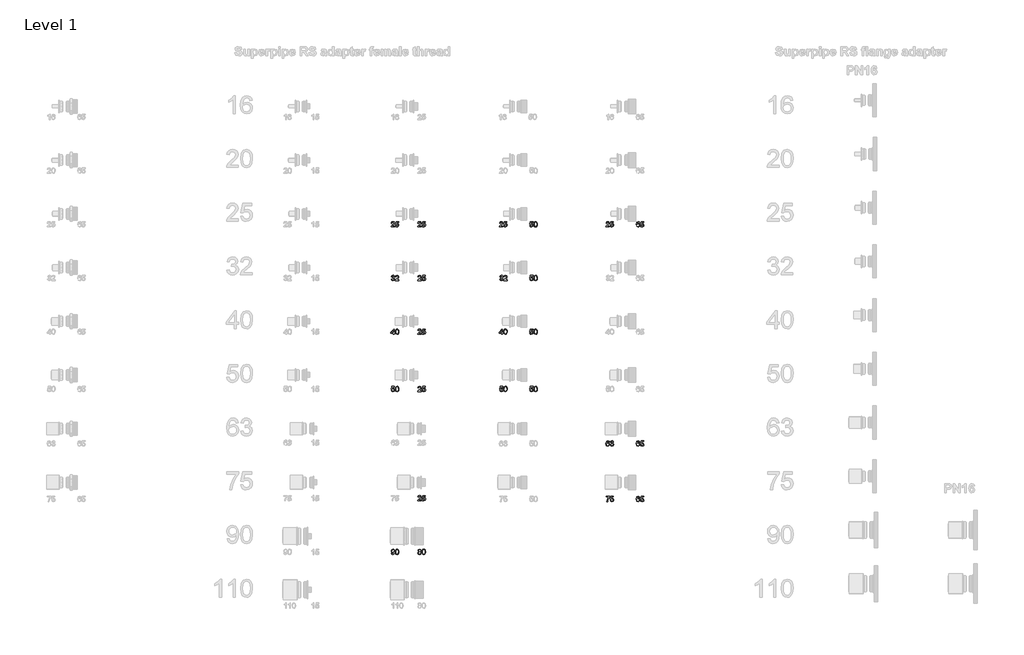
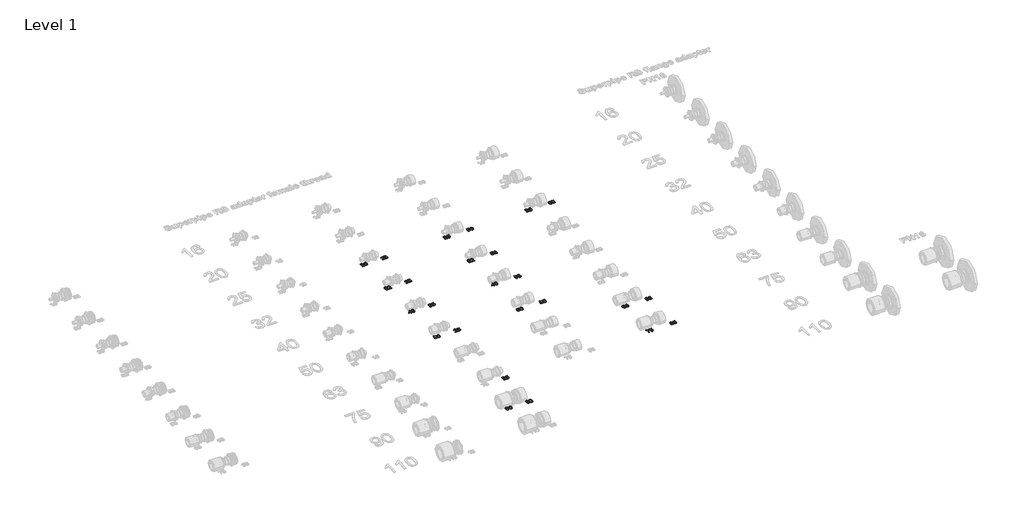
# One storey, part 47 of 58: 25 proxies.
"""IFC4 building model written with IfcOpenShell, lengths in millimetres."""

from ifc_helpers import new_model, si_unit, frame, origin, place, context, project, spatial, polyline, outline, extrude, element, save

model = new_model("IFC4")

# Units and contexts
model_context = context("Model", 3, world=origin())
ifc_project = project(units=[si_unit("LENGTHUNIT", "METRE", prefix="MILLI")], contexts=[model_context])

# Site, building, storey
site = spatial("IfcSite", under=ifc_project)
building = spatial("IfcBuilding", under=site)
storey = spatial("IfcBuildingStorey", under=building, Name="Level 1", Elevation=27.3876384)

# Proxies
placement = place(None, origin())
element("IfcBuildingElementProxy", 1, Name="30mm Arial", ObjectType="30mm Arial", at=placement, inside=storey, context=model_context, shape_type="SweptSolid", body=[
    extrude(outline(polyline([(32826.8418771, 17977.3459656), (32826.8418771, 17973.5788539), (32807.0645411, 17973.5788539), (32807.4692113, 17976.1761008), (32809.7574373, 17980.1749781), (32814.4736845, 17984.5417374), (32820.9778381, 17990.8178042), (32822.6038765, 17995.0852354), (32821.0698086, 17998.5396473), (32817.0635737, 17999.9486353), (32812.8881131, 17998.5727567), (32811.3025417, 17994.7688569), (32807.53543, 17995.2397458), (32810.4233037, 18001.5452432), (32817.1445077, 18003.715747), (32823.8877847, 18001.3024411), (32826.3709882, 17995.3133222), (32825.7014429, 17991.741188), (32823.4757569, 17988.0476528), (32818.078928, 17982.8862684), (32813.7452781, 17979.2626308), (32812.0456633, 17977.3459656), (32826.8418771, 17977.3459656)])), frame((0.0, 0.0, 27.3876384), z_axis=(0.0, 0.0, 1.0), x_axis=(1.0, 0.0, 0.0)), (0.0, 0.0, 1.0), 2.0),
    extrude(outline(polyline([(32830.6089888, 17981.5839661), (32834.3761004, 17982.0548551), (32836.2743715, 17978.1737001), (32840.2107088, 17976.8750766), (32844.9343137, 17978.6813772), (32846.6192132, 17983.4748796), (32845.0409994, 17987.9483247), (32840.26957, 17989.5890784), (32836.9623108, 17988.9342484), (32834.8469893, 17987.2346336), (32831.0798777, 17987.7055225), (32834.3761004, 18003.244858), (32848.973658, 18003.244858), (32848.973658, 17999.4777464), (32837.4221633, 17999.4777464), (32835.8108402, 17991.1783286), (32841.3217125, 17993.35619), (32847.7633262, 17990.6559361), (32850.3863248, 17983.7103241), (32848.0245224, 17976.7205662), (32840.1959936, 17973.107965), (32833.5483659, 17975.4293004), (32830.6089888, 17981.5839661)])), frame((0.0, 0.0, 27.3876384), z_axis=(0.0, 0.0, 1.0), x_axis=(1.0, 0.0, 0.0)), (0.0, 0.0, 1.0), 2.0),
])
element("IfcBuildingElementProxy", 2, Name="30mm Arial", ObjectType="30mm Arial", at=placement, inside=storey, context=model_context, shape_type="SweptSolid", body=[
    extrude(outline(polyline([(32976.28543, 17981.5839661), (32980.0525417, 17982.0548551), (32981.9508128, 17978.1737001), (32985.8871501, 17976.8750766), (32990.6107549, 17978.6813772), (32992.2956545, 17983.4748796), (32990.7174407, 17987.9483247), (32985.9460112, 17989.5890784), (32982.6387521, 17988.9342484), (32980.5234306, 17987.2346336), (32976.756319, 17987.7055225), (32980.0525417, 18003.244858), (32994.6500992, 18003.244858), (32994.6500992, 17999.4777464), (32983.0986046, 17999.4777464), (32981.4872814, 17991.1783286), (32986.9981537, 17993.35619), (32993.4397675, 17990.6559361), (32996.0627661, 17983.7103241), (32993.7009637, 17976.7205662), (32985.8724348, 17973.107965), (32979.2248072, 17975.4293004), (32976.28543, 17981.5839661)])), frame((0.0, 0.0, 27.3876384), z_axis=(0.0, 0.0, 1.0), x_axis=(1.0, 0.0, 0.0)), (0.0, 0.0, 1.0), 2.0),
    extrude(outline(polyline([(32999.3589888, 17988.4044983), (33000.4663136, 17997.075477), (33003.7551786, 18002.0749933), (33009.2476568, 18003.715747), (33013.6475255, 18002.7445385), (33016.6862307, 17999.9449565), (33018.4520643, 17995.4862267), (33019.1363248, 17988.4044983), (33018.0400365, 17979.7703079), (33014.7622079, 17974.7597551), (33009.2476568, 17973.107965), (33002.3609058, 17975.9774445), (32999.3589888, 17988.4044983)]), holes=[polyline([(33003.1261004, 17988.411856), (33004.891934, 17979.0566168), (33009.2476568, 17976.8750766), (33013.6033796, 17979.0639745), (33015.3692132, 17988.411856), (33013.6622407, 17997.6604093), (33009.203511, 17999.9486353), (33004.9507951, 17997.932642), (33003.1261004, 17988.411856)])]), frame((0.0, 0.0, 27.3876384), z_axis=(0.0, 0.0, 1.0), x_axis=(1.0, 0.0, 0.0)), (0.0, 0.0, 1.0), 2.0),
])
element("IfcBuildingElementProxy", 3, Name="30mm Arial", ObjectType="30mm Arial", at=placement, inside=storey, context=model_context, shape_type="SweptSolid", body=[
    extrude(outline(polyline([(32807.53543, 17681.5839661), (32811.3025417, 17682.0548551), (32813.3810749, 17678.0890872), (32817.2695876, 17676.8750766), (32821.8460396, 17678.5452609), (32823.5456545, 17682.6802545), (32821.8607549, 17686.5761248), (32817.5786085, 17688.1175504), (32814.9372158, 17687.7055225), (32815.3566012, 17691.4726342), (32820.2347165, 17692.5100614), (32822.1329876, 17695.8357146), (32820.7571089, 17698.7824494), (32817.2107265, 17699.9486353), (32813.6201982, 17698.771413), (32811.7734306, 17695.2397458), (32808.006319, 17695.7106348), (32811.0891701, 17701.6188196), (32817.078289, 17703.715747), (32821.6216316, 17702.6819986), (32824.8001321, 17699.8566648), (32825.9000992, 17696.0564438), (32824.8553144, 17692.5836378), (32821.7651056, 17690.0893979), (32825.8706687, 17687.5142239), (32827.3127661, 17682.6140357), (32824.4285712, 17675.8744376), (32817.1371501, 17673.107965), (32810.5299895, 17675.4697674), (32807.53543, 17681.5839661)])), frame((0.0, 0.0, 27.3876384), z_axis=(0.0, 0.0, 1.0), x_axis=(1.0, 0.0, 0.0)), (0.0, 0.0, 1.0), 2.0),
    extrude(outline(polyline([(32849.9154359, 17677.3459656), (32849.9154359, 17673.5788539), (32830.1380998, 17673.5788539), (32830.54277, 17676.1761008), (32832.830996, 17680.1749781), (32837.5472432, 17684.5417374), (32844.0513969, 17690.8178042), (32845.6774353, 17695.0852354), (32844.1433674, 17698.5396473), (32840.1371324, 17699.9486353), (32835.9616718, 17698.5727567), (32834.3761004, 17694.7688569), (32830.6089888, 17695.2397458), (32833.4968624, 17701.5452432), (32840.2180665, 17703.715747), (32846.9613434, 17701.3024411), (32849.4445469, 17695.3133222), (32848.7750017, 17691.741188), (32846.5493156, 17688.0476528), (32841.1524867, 17682.8862684), (32836.8188368, 17679.2626308), (32835.119222, 17677.3459656), (32849.9154359, 17677.3459656)])), frame((0.0, 0.0, 27.3876384), z_axis=(0.0, 0.0, 1.0), x_axis=(1.0, 0.0, 0.0)), (0.0, 0.0, 1.0), 2.0),
])
element("IfcBuildingElementProxy", 4, Name="30mm Arial", ObjectType="30mm Arial", at=placement, inside=storey, context=model_context, shape_type="SweptSolid", body=[
    extrude(outline(polyline([(32976.28543, 17681.5839661), (32980.0525417, 17682.0548551), (32981.9508128, 17678.1737001), (32985.8871501, 17676.8750766), (32990.6107549, 17678.6813772), (32992.2956545, 17683.4748796), (32990.7174407, 17687.9483247), (32985.9460112, 17689.5890784), (32982.6387521, 17688.9342484), (32980.5234306, 17687.2346336), (32976.756319, 17687.7055225), (32980.0525417, 17703.244858), (32994.6500992, 17703.244858), (32994.6500992, 17699.4777464), (32983.0986046, 17699.4777464), (32981.4872814, 17691.1783286), (32986.9981537, 17693.35619), (32993.4397675, 17690.6559361), (32996.0627661, 17683.7103241), (32993.7009637, 17676.7205662), (32985.8724348, 17673.107965), (32979.2248072, 17675.4293004), (32976.28543, 17681.5839661)])), frame((0.0, 0.0, 27.3876384), z_axis=(0.0, 0.0, 1.0), x_axis=(1.0, 0.0, 0.0)), (0.0, 0.0, 1.0), 2.0),
    extrude(outline(polyline([(32999.3589888, 17688.4044983), (33000.4663136, 17697.075477), (33003.7551786, 17702.0749933), (33009.2476568, 17703.715747), (33013.6475255, 17702.7445385), (33016.6862307, 17699.9449565), (33018.4520643, 17695.4862267), (33019.1363248, 17688.4044983), (33018.0400365, 17679.7703079), (33014.7622079, 17674.7597551), (33009.2476568, 17673.107965), (33002.3609058, 17675.9774445), (32999.3589888, 17688.4044983)]), holes=[polyline([(33003.1261004, 17688.411856), (33004.891934, 17679.0566168), (33009.2476568, 17676.8750766), (33013.6033796, 17679.0639745), (33015.3692132, 17688.411856), (33013.6622407, 17697.6604093), (33009.203511, 17699.9486353), (33004.9507951, 17697.932642), (33003.1261004, 17688.411856)])]), frame((0.0, 0.0, 27.3876384), z_axis=(0.0, 0.0, 1.0), x_axis=(1.0, 0.0, 0.0)), (0.0, 0.0, 1.0), 2.0),
])
element("IfcBuildingElementProxy", 5, Name="30mm Arial", ObjectType="30mm Arial", at=placement, inside=storey, context=model_context, shape_type="SweptSolid", body=[
    extrude(outline(polyline([(32819.7785428, 17373.5788539), (32819.7785428, 17380.6421882), (32806.1227632, 17380.6421882), (32806.1227632, 17384.4092999), (32820.7203207, 17403.244858), (32823.5456545, 17403.244858), (32823.5456545, 17384.4092999), (32827.3127661, 17384.4092999), (32827.3127661, 17380.6421882), (32823.5456545, 17380.6421882), (32823.5456545, 17373.5788539), (32819.7785428, 17373.5788539)]), holes=[polyline([(32819.7785428, 17384.4092999), (32819.7785428, 17396.0490862), (32810.7580763, 17384.4092999), (32819.7785428, 17384.4092999)])]), frame((0.0, 0.0, 27.3876384), z_axis=(0.0, 0.0, 1.0), x_axis=(1.0, 0.0, 0.0)), (0.0, 0.0, 1.0), 2.0),
    extrude(outline(polyline([(32830.6089888, 17388.4044983), (32831.7163136, 17397.075477), (32835.0051786, 17402.0749933), (32840.4976568, 17403.715747), (32844.8975255, 17402.7445385), (32847.9362307, 17399.9449565), (32849.7020643, 17395.4862267), (32850.3863248, 17388.4044983), (32849.2900365, 17379.7703079), (32846.0122079, 17374.7597551), (32840.4976568, 17373.107965), (32833.6109058, 17375.9774445), (32830.6089888, 17388.4044983)]), holes=[polyline([(32834.3761004, 17388.411856), (32836.141934, 17379.0566168), (32840.4976568, 17376.8750766), (32844.8533796, 17379.0639745), (32846.6192132, 17388.411856), (32844.9122407, 17397.6604093), (32840.453511, 17399.9486353), (32836.2007951, 17397.932642), (32834.3761004, 17388.411856)])]), frame((0.0, 0.0, 27.3876384), z_axis=(0.0, 0.0, 1.0), x_axis=(1.0, 0.0, 0.0)), (0.0, 0.0, 1.0), 2.0),
])
element("IfcBuildingElementProxy", 6, Name="30mm Arial", ObjectType="30mm Arial", at=placement, inside=storey, context=model_context, shape_type="SweptSolid", body=[
    extrude(outline(polyline([(32976.28543, 17381.5839661), (32980.0525417, 17382.0548551), (32981.9508128, 17378.1737001), (32985.8871501, 17376.8750766), (32990.6107549, 17378.6813772), (32992.2956545, 17383.4748796), (32990.7174407, 17387.9483247), (32985.9460112, 17389.5890784), (32982.6387521, 17388.9342484), (32980.5234306, 17387.2346336), (32976.756319, 17387.7055225), (32980.0525417, 17403.244858), (32994.6500992, 17403.244858), (32994.6500992, 17399.4777464), (32983.0986046, 17399.4777464), (32981.4872814, 17391.1783286), (32986.9981537, 17393.35619), (32993.4397675, 17390.6559361), (32996.0627661, 17383.7103241), (32993.7009637, 17376.7205662), (32985.8724348, 17373.107965), (32979.2248072, 17375.4293004), (32976.28543, 17381.5839661)])), frame((0.0, 0.0, 27.3876384), z_axis=(0.0, 0.0, 1.0), x_axis=(1.0, 0.0, 0.0)), (0.0, 0.0, 1.0), 2.0),
    extrude(outline(polyline([(32999.3589888, 17388.4044983), (33000.4663136, 17397.075477), (33003.7551786, 17402.0749933), (33009.2476568, 17403.715747), (33013.6475255, 17402.7445385), (33016.6862307, 17399.9449565), (33018.4520643, 17395.4862267), (33019.1363248, 17388.4044983), (33018.0400365, 17379.7703079), (33014.7622079, 17374.7597551), (33009.2476568, 17373.107965), (33002.3609058, 17375.9774445), (32999.3589888, 17388.4044983)]), holes=[polyline([(33003.1261004, 17388.411856), (33004.891934, 17379.0566168), (33009.2476568, 17376.8750766), (33013.6033796, 17379.0639745), (33015.3692132, 17388.411856), (33013.6622407, 17397.6604093), (33009.203511, 17399.9486353), (33004.9507951, 17397.932642), (33003.1261004, 17388.411856)])]), frame((0.0, 0.0, 27.3876384), z_axis=(0.0, 0.0, 1.0), x_axis=(1.0, 0.0, 0.0)), (0.0, 0.0, 1.0), 2.0),
])
element("IfcBuildingElementProxy", 7, Name="30mm Arial", ObjectType="30mm Arial", at=placement, inside=storey, context=model_context, shape_type="SweptSolid", body=[
    extrude(outline(polyline([(32807.53543, 17061.5839661), (32811.3025417, 17062.0548551), (32813.2008128, 17058.1737001), (32817.1371501, 17056.8750766), (32821.8607549, 17058.6813772), (32823.5456545, 17063.4748796), (32821.9674407, 17067.9483247), (32817.1960112, 17069.5890784), (32813.8887521, 17068.9342484), (32811.7734306, 17067.2346336), (32808.006319, 17067.7055225), (32811.3025417, 17083.244858), (32825.9000992, 17083.244858), (32825.9000992, 17079.4777464), (32814.3486046, 17079.4777464), (32812.7372814, 17071.1783286), (32818.2481537, 17073.35619), (32824.6897675, 17070.6559361), (32827.3127661, 17063.7103241), (32824.9509637, 17056.7205662), (32817.1224348, 17053.107965), (32810.4748072, 17055.4293004), (32807.53543, 17061.5839661)])), frame((0.0, 0.0, 27.3876384), z_axis=(0.0, 0.0, 1.0), x_axis=(1.0, 0.0, 0.0)), (0.0, 0.0, 1.0), 2.0),
    extrude(outline(polyline([(32830.6089888, 17068.4044983), (32831.7163136, 17077.075477), (32835.0051786, 17082.0749933), (32840.4976568, 17083.715747), (32844.8975255, 17082.7445385), (32847.9362307, 17079.9449565), (32849.7020643, 17075.4862267), (32850.3863248, 17068.4044983), (32849.2900365, 17059.7703079), (32846.0122079, 17054.7597551), (32840.4976568, 17053.107965), (32833.6109058, 17055.9774445), (32830.6089888, 17068.4044983)]), holes=[polyline([(32834.3761004, 17068.411856), (32836.141934, 17059.0566168), (32840.4976568, 17056.8750766), (32844.8533796, 17059.0639745), (32846.6192132, 17068.411856), (32844.9122407, 17077.6604093), (32840.453511, 17079.9486353), (32836.2007951, 17077.932642), (32834.3761004, 17068.411856)])]), frame((0.0, 0.0, 27.3876384), z_axis=(0.0, 0.0, 1.0), x_axis=(1.0, 0.0, 0.0)), (0.0, 0.0, 1.0), 2.0),
])
element("IfcBuildingElementProxy", 8, Name="30mm Arial", ObjectType="30mm Arial", at=placement, inside=storey, context=model_context, shape_type="SweptSolid", body=[
    extrude(outline(polyline([(32976.28543, 17061.5839661), (32980.0525417, 17062.0548551), (32981.9508128, 17058.1737001), (32985.8871501, 17056.8750766), (32990.6107549, 17058.6813772), (32992.2956545, 17063.4748796), (32990.7174407, 17067.9483247), (32985.9460112, 17069.5890784), (32982.6387521, 17068.9342484), (32980.5234306, 17067.2346336), (32976.756319, 17067.7055225), (32980.0525417, 17083.244858), (32994.6500992, 17083.244858), (32994.6500992, 17079.4777464), (32983.0986046, 17079.4777464), (32981.4872814, 17071.1783286), (32986.9981537, 17073.35619), (32993.4397675, 17070.6559361), (32996.0627661, 17063.7103241), (32993.7009637, 17056.7205662), (32985.8724348, 17053.107965), (32979.2248072, 17055.4293004), (32976.28543, 17061.5839661)])), frame((0.0, 0.0, 27.3876384), z_axis=(0.0, 0.0, 1.0), x_axis=(1.0, 0.0, 0.0)), (0.0, 0.0, 1.0), 2.0),
    extrude(outline(polyline([(32999.3589888, 17068.4044983), (33000.4663136, 17077.075477), (33003.7551786, 17082.0749933), (33009.2476568, 17083.715747), (33013.6475255, 17082.7445385), (33016.6862307, 17079.9449565), (33018.4520643, 17075.4862267), (33019.1363248, 17068.4044983), (33018.0400365, 17059.7703079), (33014.7622079, 17054.7597551), (33009.2476568, 17053.107965), (33002.3609058, 17055.9774445), (32999.3589888, 17068.4044983)]), holes=[polyline([(33003.1261004, 17068.411856), (33004.891934, 17059.0566168), (33009.2476568, 17056.8750766), (33013.6033796, 17059.0639745), (33015.3692132, 17068.411856), (33013.6622407, 17077.6604093), (33009.203511, 17079.9486353), (33004.9507951, 17077.932642), (33003.1261004, 17068.411856)])]), frame((0.0, 0.0, 27.3876384), z_axis=(0.0, 0.0, 1.0), x_axis=(1.0, 0.0, 0.0)), (0.0, 0.0, 1.0), 2.0),
])
element("IfcBuildingElementProxy", 9, Name="30mm Arial", ObjectType="30mm Arial", at=placement, inside=storey, context=model_context, shape_type="SweptSolid", body=[
    extrude(outline(polyline([(33421.8418771, 17977.3459656), (33421.8418771, 17973.5788539), (33402.0645411, 17973.5788539), (33402.4692113, 17976.1761008), (33404.7574373, 17980.1749781), (33409.4736845, 17984.5417374), (33415.9778381, 17990.8178042), (33417.6038765, 17995.0852354), (33416.0698086, 17998.5396473), (33412.0635737, 17999.9486353), (33407.8881131, 17998.5727567), (33406.3025417, 17994.7688569), (33402.53543, 17995.2397458), (33405.4233037, 18001.5452432), (33412.1445077, 18003.715747), (33418.8877847, 18001.3024411), (33421.3709882, 17995.3133222), (33420.7014429, 17991.741188), (33418.4757569, 17988.0476528), (33413.078928, 17982.8862684), (33408.7452781, 17979.2626308), (33407.0456633, 17977.3459656), (33421.8418771, 17977.3459656)])), frame((0.0, 0.0, 27.3876384), z_axis=(0.0, 0.0, 1.0), x_axis=(1.0, 0.0, 0.0)), (0.0, 0.0, 1.0), 2.0),
    extrude(outline(polyline([(33425.6089888, 17981.5839661), (33429.3761004, 17982.0548551), (33431.2743715, 17978.1737001), (33435.2107088, 17976.8750766), (33439.9343137, 17978.6813772), (33441.6192132, 17983.4748796), (33440.0409994, 17987.9483247), (33435.26957, 17989.5890784), (33431.9623108, 17988.9342484), (33429.8469893, 17987.2346336), (33426.0798777, 17987.7055225), (33429.3761004, 18003.244858), (33443.973658, 18003.244858), (33443.973658, 17999.4777464), (33432.4221633, 17999.4777464), (33430.8108402, 17991.1783286), (33436.3217125, 17993.35619), (33442.7633262, 17990.6559361), (33445.3863248, 17983.7103241), (33443.0245224, 17976.7205662), (33435.1959936, 17973.107965), (33428.5483659, 17975.4293004), (33425.6089888, 17981.5839661)])), frame((0.0, 0.0, 27.3876384), z_axis=(0.0, 0.0, 1.0), x_axis=(1.0, 0.0, 0.0)), (0.0, 0.0, 1.0), 2.0),
])
element("IfcBuildingElementProxy", 10, Name="30mm Arial", ObjectType="30mm Arial", at=placement, inside=storey, context=model_context, shape_type="SweptSolid", body=[
    extrude(outline(polyline([(33590.5918771, 17995.7106348), (33586.8247655, 17995.2397458), (33585.3973834, 17998.381458), (33581.6229141, 17999.9486353), (33578.2236845, 17999.036288), (33575.6521893, 17995.6113066), (33574.5816527, 17988.8974602), (33577.9036271, 17991.9030561), (33582.0202266, 17992.885301), (33588.4213734, 17990.1997625), (33591.0627661, 17983.261508), (33589.8193249, 17978.0633355), (33586.3980224, 17974.3845155), (33581.461046, 17973.107965), (33573.7833488, 17976.4924793), (33570.8145411, 17987.6466614), (33574.1107637, 18000.2797291), (33581.8583586, 18003.715747), (33587.8106892, 18001.589389), (33590.5918771, 17995.7106348)]), holes=[polyline([(33574.5816527, 17983.3203692), (33575.453533, 17980.0572559), (33577.7711896, 17977.6880958), (33581.1667404, 17976.8750766), (33585.6070761, 17978.5599761), (33587.2956545, 17983.1364282), (33585.629149, 17987.5179027), (33581.01223, 17989.1181894), (33576.4541721, 17987.5179027), (33574.5816527, 17983.3203692)])]), frame((0.0, 0.0, 27.3876384), z_axis=(0.0, 0.0, 1.0), x_axis=(1.0, 0.0, 0.0)), (0.0, 0.0, 1.0), 2.0),
    extrude(outline(polyline([(33594.3589888, 17981.5839661), (33598.1261004, 17982.0548551), (33600.0243715, 17978.1737001), (33603.9607088, 17976.8750766), (33608.6843137, 17978.6813772), (33610.3692132, 17983.4748796), (33608.7909994, 17987.9483247), (33604.01957, 17989.5890784), (33600.7123108, 17988.9342484), (33598.5969893, 17987.2346336), (33594.8298777, 17987.7055225), (33598.1261004, 18003.244858), (33612.723658, 18003.244858), (33612.723658, 17999.4777464), (33601.1721633, 17999.4777464), (33599.5608402, 17991.1783286), (33605.0717125, 17993.35619), (33611.5133262, 17990.6559361), (33614.1363248, 17983.7103241), (33611.7745224, 17976.7205662), (33603.9459936, 17973.107965), (33597.2983659, 17975.4293004), (33594.3589888, 17981.5839661)])), frame((0.0, 0.0, 27.3876384), z_axis=(0.0, 0.0, 1.0), x_axis=(1.0, 0.0, 0.0)), (0.0, 0.0, 1.0), 2.0),
])
element("IfcBuildingElementProxy", 11, Name="30mm Arial", ObjectType="30mm Arial", at=placement, inside=storey, context=model_context, shape_type="SweptSolid", body=[
    extrude(outline(polyline([(33421.8418771, 16771.7106348), (33418.0747655, 16771.2397458), (33416.6473834, 16774.381458), (33412.8729141, 16775.9486353), (33409.4736845, 16775.036288), (33406.9021893, 16771.6113066), (33405.8316527, 16764.8974602), (33409.1536271, 16767.9030561), (33413.2702266, 16768.885301), (33419.6713734, 16766.1997625), (33422.3127661, 16759.261508), (33421.0693249, 16754.0633355), (33417.6480224, 16750.3845155), (33412.711046, 16749.107965), (33405.0333488, 16752.4924793), (33402.0645411, 16763.6466614), (33405.3607637, 16776.2797291), (33413.1083586, 16779.715747), (33419.0606892, 16777.589389), (33421.8418771, 16771.7106348)]), holes=[polyline([(33405.8316527, 16759.3203692), (33406.703533, 16756.0572559), (33409.0211896, 16753.6880958), (33412.4167404, 16752.8750766), (33416.8570761, 16754.5599761), (33418.5456545, 16759.1364282), (33416.879149, 16763.5179027), (33412.26223, 16765.1181894), (33407.7041721, 16763.5179027), (33405.8316527, 16759.3203692)])]), frame((0.0, 0.0, 27.3876384), z_axis=(0.0, 0.0, 1.0), x_axis=(1.0, 0.0, 0.0)), (0.0, 0.0, 1.0), 2.0),
    extrude(outline(polyline([(33425.6089888, 16757.5839661), (33429.3761004, 16758.0548551), (33431.4546337, 16754.0890872), (33435.3431464, 16752.8750766), (33439.9195984, 16754.5452609), (33441.6192132, 16758.6802545), (33439.9343137, 16762.5761248), (33435.6521672, 16764.1175504), (33433.0107745, 16763.7055225), (33433.43016, 16767.4726342), (33438.3082752, 16768.5100614), (33440.2065463, 16771.8357146), (33438.8306677, 16774.7824494), (33435.2842852, 16775.9486353), (33431.693757, 16774.771413), (33429.8469893, 16771.2397458), (33426.0798777, 16771.7106348), (33429.1627288, 16777.6188196), (33435.1518477, 16779.715747), (33439.6951904, 16778.6819986), (33442.8736908, 16775.8566648), (33443.973658, 16772.0564438), (33442.9288731, 16768.5836378), (33439.8386643, 16766.0893979), (33443.9442274, 16763.5142239), (33445.3863248, 16758.6140357), (33442.50213, 16751.8744376), (33435.2107088, 16749.107965), (33428.6035482, 16751.4697674), (33425.6089888, 16757.5839661)])), frame((0.0, 0.0, 27.3876384), z_axis=(0.0, 0.0, 1.0), x_axis=(1.0, 0.0, 0.0)), (0.0, 0.0, 1.0), 2.0),
])
element("IfcBuildingElementProxy", 12, Name="30mm Arial", ObjectType="30mm Arial", at=placement, inside=storey, context=model_context, shape_type="SweptSolid", body=[
    extrude(outline(polyline([(33590.5918771, 16771.7106348), (33586.8247655, 16771.2397458), (33585.3973834, 16774.381458), (33581.6229141, 16775.9486353), (33578.2236845, 16775.036288), (33575.6521893, 16771.6113066), (33574.5816527, 16764.8974602), (33577.9036271, 16767.9030561), (33582.0202266, 16768.885301), (33588.4213734, 16766.1997625), (33591.0627661, 16759.261508), (33589.8193249, 16754.0633355), (33586.3980224, 16750.3845155), (33581.461046, 16749.107965), (33573.7833488, 16752.4924793), (33570.8145411, 16763.6466614), (33574.1107637, 16776.2797291), (33581.8583586, 16779.715747), (33587.8106892, 16777.589389), (33590.5918771, 16771.7106348)]), holes=[polyline([(33574.5816527, 16759.3203692), (33575.453533, 16756.0572559), (33577.7711896, 16753.6880958), (33581.1667404, 16752.8750766), (33585.6070761, 16754.5599761), (33587.2956545, 16759.1364282), (33585.629149, 16763.5179027), (33581.01223, 16765.1181894), (33576.4541721, 16763.5179027), (33574.5816527, 16759.3203692)])]), frame((0.0, 0.0, 27.3876384), z_axis=(0.0, 0.0, 1.0), x_axis=(1.0, 0.0, 0.0)), (0.0, 0.0, 1.0), 2.0),
    extrude(outline(polyline([(33594.3589888, 16757.5839661), (33598.1261004, 16758.0548551), (33600.0243715, 16754.1737001), (33603.9607088, 16752.8750766), (33608.6843137, 16754.6813772), (33610.3692132, 16759.4748796), (33608.7909994, 16763.9483247), (33604.01957, 16765.5890784), (33600.7123108, 16764.9342484), (33598.5969893, 16763.2346336), (33594.8298777, 16763.7055225), (33598.1261004, 16779.244858), (33612.723658, 16779.244858), (33612.723658, 16775.4777464), (33601.1721633, 16775.4777464), (33599.5608402, 16767.1783286), (33605.0717125, 16769.35619), (33611.5133262, 16766.6559361), (33614.1363248, 16759.7103241), (33611.7745224, 16752.7205662), (33603.9459936, 16749.107965), (33597.2983659, 16751.4293004), (33594.3589888, 16757.5839661)])), frame((0.0, 0.0, 27.3876384), z_axis=(0.0, 0.0, 1.0), x_axis=(1.0, 0.0, 0.0)), (0.0, 0.0, 1.0), 2.0),
])
element("IfcBuildingElementProxy", 13, Name="30mm Arial", ObjectType="30mm Arial", at=placement, inside=storey, context=model_context, shape_type="SweptSolid", body=[
    extrude(outline(polyline([(33402.53543, 16465.3277464), (33402.53543, 16469.094858), (33422.3127661, 16469.094858), (33422.3127661, 16466.0487951), (33416.7025657, 16457.9443547), (33412.4093828, 16447.6179071), (33411.0114312, 16439.4288539), (33407.2443196, 16439.4288539), (33408.7415993, 16447.926928), (33412.8508412, 16457.5323269), (33418.5456545, 16465.3277464), (33402.53543, 16465.3277464)])), frame((0.0, 0.0, 27.3876384), z_axis=(0.0, 0.0, 1.0), x_axis=(1.0, 0.0, 0.0)), (0.0, 0.0, 1.0), 2.0),
    extrude(outline(polyline([(33425.6089888, 16447.4339661), (33429.3761004, 16447.9048551), (33431.2743715, 16444.0237001), (33435.2107088, 16442.7250766), (33439.9343137, 16444.5313772), (33441.6192132, 16449.3248796), (33440.0409994, 16453.7983247), (33435.26957, 16455.4390784), (33431.9623108, 16454.7842484), (33429.8469893, 16453.0846336), (33426.0798777, 16453.5555225), (33429.3761004, 16469.094858), (33443.973658, 16469.094858), (33443.973658, 16465.3277464), (33432.4221633, 16465.3277464), (33430.8108402, 16457.0283286), (33436.3217125, 16459.20619), (33442.7633262, 16456.5059361), (33445.3863248, 16449.5603241), (33443.0245224, 16442.5705662), (33435.1959936, 16438.957965), (33428.5483659, 16441.2793004), (33425.6089888, 16447.4339661)])), frame((0.0, 0.0, 27.3876384), z_axis=(0.0, 0.0, 1.0), x_axis=(1.0, 0.0, 0.0)), (0.0, 0.0, 1.0), 2.0),
])
element("IfcBuildingElementProxy", 14, Name="30mm Arial", ObjectType="30mm Arial", at=placement, inside=storey, context=model_context, shape_type="SweptSolid", body=[
    extrude(outline(polyline([(33590.5918771, 16461.5606348), (33586.8247655, 16461.0897458), (33585.3973834, 16464.231458), (33581.6229141, 16465.7986353), (33578.2236845, 16464.886288), (33575.6521893, 16461.4613066), (33574.5816527, 16454.7474602), (33577.9036271, 16457.7530561), (33582.0202266, 16458.735301), (33588.4213734, 16456.0497625), (33591.0627661, 16449.111508), (33589.8193249, 16443.9133355), (33586.3980224, 16440.2345155), (33581.461046, 16438.957965), (33573.7833488, 16442.3424793), (33570.8145411, 16453.4966614), (33574.1107637, 16466.1297291), (33581.8583586, 16469.565747), (33587.8106892, 16467.439389), (33590.5918771, 16461.5606348)]), holes=[polyline([(33574.5816527, 16449.1703692), (33575.453533, 16445.9072559), (33577.7711896, 16443.5380958), (33581.1667404, 16442.7250766), (33585.6070761, 16444.4099761), (33587.2956545, 16448.9864282), (33585.629149, 16453.3679027), (33581.01223, 16454.9681894), (33576.4541721, 16453.3679027), (33574.5816527, 16449.1703692)])]), frame((0.0, 0.0, 27.3876384), z_axis=(0.0, 0.0, 1.0), x_axis=(1.0, 0.0, 0.0)), (0.0, 0.0, 1.0), 2.0),
    extrude(outline(polyline([(33594.3589888, 16447.4339661), (33598.1261004, 16447.9048551), (33600.0243715, 16444.0237001), (33603.9607088, 16442.7250766), (33608.6843137, 16444.5313772), (33610.3692132, 16449.3248796), (33608.7909994, 16453.7983247), (33604.01957, 16455.4390784), (33600.7123108, 16454.7842484), (33598.5969893, 16453.0846336), (33594.8298777, 16453.5555225), (33598.1261004, 16469.094858), (33612.723658, 16469.094858), (33612.723658, 16465.3277464), (33601.1721633, 16465.3277464), (33599.5608402, 16457.0283286), (33605.0717125, 16459.20619), (33611.5133262, 16456.5059361), (33614.1363248, 16449.5603241), (33611.7745224, 16442.5705662), (33603.9459936, 16438.957965), (33597.2983659, 16441.2793004), (33594.3589888, 16447.4339661)])), frame((0.0, 0.0, 27.3876384), z_axis=(0.0, 0.0, 1.0), x_axis=(1.0, 0.0, 0.0)), (0.0, 0.0, 1.0), 2.0),
])
element("IfcBuildingElementProxy", 15, Name="30mm Arial", ObjectType="30mm Arial", at=placement, inside=storey, context=model_context, shape_type="SweptSolid", body=[
    extrude(outline(polyline([(32221.8418771, 17977.3459656), (32221.8418771, 17973.5788539), (32202.0645411, 17973.5788539), (32202.4692113, 17976.1761008), (32204.7574373, 17980.1749781), (32209.4736845, 17984.5417374), (32215.9778381, 17990.8178042), (32217.6038765, 17995.0852354), (32216.0698086, 17998.5396473), (32212.0635737, 17999.9486353), (32207.8881131, 17998.5727567), (32206.3025417, 17994.7688569), (32202.53543, 17995.2397458), (32205.4233037, 18001.5452432), (32212.1445077, 18003.715747), (32218.8877847, 18001.3024411), (32221.3709882, 17995.3133222), (32220.7014429, 17991.741188), (32218.4757569, 17988.0476528), (32213.078928, 17982.8862684), (32208.7452781, 17979.2626308), (32207.0456633, 17977.3459656), (32221.8418771, 17977.3459656)])), frame((0.0, 0.0, 27.3876384), z_axis=(0.0, 0.0, 1.0), x_axis=(1.0, 0.0, 0.0)), (0.0, 0.0, 1.0), 2.0),
    extrude(outline(polyline([(32225.6089888, 17981.5839661), (32229.3761004, 17982.0548551), (32231.2743715, 17978.1737001), (32235.2107088, 17976.8750766), (32239.9343137, 17978.6813772), (32241.6192132, 17983.4748796), (32240.0409994, 17987.9483247), (32235.26957, 17989.5890784), (32231.9623108, 17988.9342484), (32229.8469893, 17987.2346336), (32226.0798777, 17987.7055225), (32229.3761004, 18003.244858), (32243.973658, 18003.244858), (32243.973658, 17999.4777464), (32232.4221633, 17999.4777464), (32230.8108402, 17991.1783286), (32236.3217125, 17993.35619), (32242.7633262, 17990.6559361), (32245.3863248, 17983.7103241), (32243.0245224, 17976.7205662), (32235.1959936, 17973.107965), (32228.5483659, 17975.4293004), (32225.6089888, 17981.5839661)])), frame((0.0, 0.0, 27.3876384), z_axis=(0.0, 0.0, 1.0), x_axis=(1.0, 0.0, 0.0)), (0.0, 0.0, 1.0), 2.0),
])
element("IfcBuildingElementProxy", 16, Name="30mm Arial", ObjectType="30mm Arial", at=placement, inside=storey, context=model_context, shape_type="SweptSolid", body=[
    extrude(outline(polyline([(32370.5918771, 17977.3459656), (32370.5918771, 17973.5788539), (32350.8145411, 17973.5788539), (32351.2192113, 17976.1761008), (32353.5074373, 17980.1749781), (32358.2236845, 17984.5417374), (32364.7278381, 17990.8178042), (32366.3538765, 17995.0852354), (32364.8198086, 17998.5396473), (32360.8135737, 17999.9486353), (32356.6381131, 17998.5727567), (32355.0525417, 17994.7688569), (32351.28543, 17995.2397458), (32354.1733037, 18001.5452432), (32360.8945077, 18003.715747), (32367.6377847, 18001.3024411), (32370.1209882, 17995.3133222), (32369.4514429, 17991.741188), (32367.2257569, 17988.0476528), (32361.828928, 17982.8862684), (32357.4952781, 17979.2626308), (32355.7956633, 17977.3459656), (32370.5918771, 17977.3459656)])), frame((0.0, 0.0, 27.3876384), z_axis=(0.0, 0.0, 1.0), x_axis=(1.0, 0.0, 0.0)), (0.0, 0.0, 1.0), 2.0),
    extrude(outline(polyline([(32374.3589888, 17981.5839661), (32378.1261004, 17982.0548551), (32380.0243715, 17978.1737001), (32383.9607088, 17976.8750766), (32388.6843137, 17978.6813772), (32390.3692132, 17983.4748796), (32388.7909994, 17987.9483247), (32384.01957, 17989.5890784), (32380.7123108, 17988.9342484), (32378.5969893, 17987.2346336), (32374.8298777, 17987.7055225), (32378.1261004, 18003.244858), (32392.723658, 18003.244858), (32392.723658, 17999.4777464), (32381.1721633, 17999.4777464), (32379.5608402, 17991.1783286), (32385.0717125, 17993.35619), (32391.5133262, 17990.6559361), (32394.1363248, 17983.7103241), (32391.7745224, 17976.7205662), (32383.9459936, 17973.107965), (32377.2983659, 17975.4293004), (32374.3589888, 17981.5839661)])), frame((0.0, 0.0, 27.3876384), z_axis=(0.0, 0.0, 1.0), x_axis=(1.0, 0.0, 0.0)), (0.0, 0.0, 1.0), 2.0),
])
element("IfcBuildingElementProxy", 17, Name="30mm Arial", ObjectType="30mm Arial", at=placement, inside=storey, context=model_context, shape_type="SweptSolid", body=[
    extrude(outline(polyline([(32202.53543, 17681.5839661), (32206.3025417, 17682.0548551), (32208.3810749, 17678.0890872), (32212.2695876, 17676.8750766), (32216.8460396, 17678.5452609), (32218.5456545, 17682.6802545), (32216.8607549, 17686.5761248), (32212.5786085, 17688.1175504), (32209.9372158, 17687.7055225), (32210.3566012, 17691.4726342), (32215.2347165, 17692.5100614), (32217.1329876, 17695.8357146), (32215.7571089, 17698.7824494), (32212.2107265, 17699.9486353), (32208.6201982, 17698.771413), (32206.7734306, 17695.2397458), (32203.006319, 17695.7106348), (32206.0891701, 17701.6188196), (32212.078289, 17703.715747), (32216.6216316, 17702.6819986), (32219.8001321, 17699.8566648), (32220.9000992, 17696.0564438), (32219.8553144, 17692.5836378), (32216.7651056, 17690.0893979), (32220.8706687, 17687.5142239), (32222.3127661, 17682.6140357), (32219.4285712, 17675.8744376), (32212.1371501, 17673.107965), (32205.5299895, 17675.4697674), (32202.53543, 17681.5839661)])), frame((0.0, 0.0, 27.3876384), z_axis=(0.0, 0.0, 1.0), x_axis=(1.0, 0.0, 0.0)), (0.0, 0.0, 1.0), 2.0),
    extrude(outline(polyline([(32244.9154359, 17677.3459656), (32244.9154359, 17673.5788539), (32225.1380998, 17673.5788539), (32225.54277, 17676.1761008), (32227.830996, 17680.1749781), (32232.5472432, 17684.5417374), (32239.0513969, 17690.8178042), (32240.6774353, 17695.0852354), (32239.1433674, 17698.5396473), (32235.1371324, 17699.9486353), (32230.9616718, 17698.5727567), (32229.3761004, 17694.7688569), (32225.6089888, 17695.2397458), (32228.4968624, 17701.5452432), (32235.2180665, 17703.715747), (32241.9613434, 17701.3024411), (32244.4445469, 17695.3133222), (32243.7750017, 17691.741188), (32241.5493156, 17688.0476528), (32236.1524867, 17682.8862684), (32231.8188368, 17679.2626308), (32230.119222, 17677.3459656), (32244.9154359, 17677.3459656)])), frame((0.0, 0.0, 27.3876384), z_axis=(0.0, 0.0, 1.0), x_axis=(1.0, 0.0, 0.0)), (0.0, 0.0, 1.0), 2.0),
])
element("IfcBuildingElementProxy", 18, Name="30mm Arial", ObjectType="30mm Arial", at=placement, inside=storey, context=model_context, shape_type="SweptSolid", body=[
    extrude(outline(polyline([(32370.5918771, 17677.3459656), (32370.5918771, 17673.5788539), (32350.8145411, 17673.5788539), (32351.2192113, 17676.1761008), (32353.5074373, 17680.1749781), (32358.2236845, 17684.5417374), (32364.7278381, 17690.8178042), (32366.3538765, 17695.0852354), (32364.8198086, 17698.5396473), (32360.8135737, 17699.9486353), (32356.6381131, 17698.5727567), (32355.0525417, 17694.7688569), (32351.28543, 17695.2397458), (32354.1733037, 17701.5452432), (32360.8945077, 17703.715747), (32367.6377847, 17701.3024411), (32370.1209882, 17695.3133222), (32369.4514429, 17691.741188), (32367.2257569, 17688.0476528), (32361.828928, 17682.8862684), (32357.4952781, 17679.2626308), (32355.7956633, 17677.3459656), (32370.5918771, 17677.3459656)])), frame((0.0, 0.0, 27.3876384), z_axis=(0.0, 0.0, 1.0), x_axis=(1.0, 0.0, 0.0)), (0.0, 0.0, 1.0), 2.0),
    extrude(outline(polyline([(32374.3589888, 17681.5839661), (32378.1261004, 17682.0548551), (32380.0243715, 17678.1737001), (32383.9607088, 17676.8750766), (32388.6843137, 17678.6813772), (32390.3692132, 17683.4748796), (32388.7909994, 17687.9483247), (32384.01957, 17689.5890784), (32380.7123108, 17688.9342484), (32378.5969893, 17687.2346336), (32374.8298777, 17687.7055225), (32378.1261004, 17703.244858), (32392.723658, 17703.244858), (32392.723658, 17699.4777464), (32381.1721633, 17699.4777464), (32379.5608402, 17691.1783286), (32385.0717125, 17693.35619), (32391.5133262, 17690.6559361), (32394.1363248, 17683.7103241), (32391.7745224, 17676.7205662), (32383.9459936, 17673.107965), (32377.2983659, 17675.4293004), (32374.3589888, 17681.5839661)])), frame((0.0, 0.0, 27.3876384), z_axis=(0.0, 0.0, 1.0), x_axis=(1.0, 0.0, 0.0)), (0.0, 0.0, 1.0), 2.0),
])
element("IfcBuildingElementProxy", 19, Name="30mm Arial", ObjectType="30mm Arial", at=placement, inside=storey, context=model_context, shape_type="SweptSolid", body=[
    extrude(outline(polyline([(32214.7785428, 17373.5788539), (32214.7785428, 17380.6421882), (32201.1227632, 17380.6421882), (32201.1227632, 17384.4092999), (32215.7203207, 17403.244858), (32218.5456545, 17403.244858), (32218.5456545, 17384.4092999), (32222.3127661, 17384.4092999), (32222.3127661, 17380.6421882), (32218.5456545, 17380.6421882), (32218.5456545, 17373.5788539), (32214.7785428, 17373.5788539)]), holes=[polyline([(32214.7785428, 17384.4092999), (32214.7785428, 17396.0490862), (32205.7580763, 17384.4092999), (32214.7785428, 17384.4092999)])]), frame((0.0, 0.0, 27.3876384), z_axis=(0.0, 0.0, 1.0), x_axis=(1.0, 0.0, 0.0)), (0.0, 0.0, 1.0), 2.0),
    extrude(outline(polyline([(32225.6089888, 17388.4044983), (32226.7163136, 17397.075477), (32230.0051786, 17402.0749933), (32235.4976568, 17403.715747), (32239.8975255, 17402.7445385), (32242.9362307, 17399.9449565), (32244.7020643, 17395.4862267), (32245.3863248, 17388.4044983), (32244.2900365, 17379.7703079), (32241.0122079, 17374.7597551), (32235.4976568, 17373.107965), (32228.6109058, 17375.9774445), (32225.6089888, 17388.4044983)]), holes=[polyline([(32229.3761004, 17388.411856), (32231.141934, 17379.0566168), (32235.4976568, 17376.8750766), (32239.8533796, 17379.0639745), (32241.6192132, 17388.411856), (32239.9122407, 17397.6604093), (32235.453511, 17399.9486353), (32231.2007951, 17397.932642), (32229.3761004, 17388.411856)])]), frame((0.0, 0.0, 27.3876384), z_axis=(0.0, 0.0, 1.0), x_axis=(1.0, 0.0, 0.0)), (0.0, 0.0, 1.0), 2.0),
])
element("IfcBuildingElementProxy", 20, Name="30mm Arial", ObjectType="30mm Arial", at=placement, inside=storey, context=model_context, shape_type="SweptSolid", body=[
    extrude(outline(polyline([(32370.5918771, 17377.3459656), (32370.5918771, 17373.5788539), (32350.8145411, 17373.5788539), (32351.2192113, 17376.1761008), (32353.5074373, 17380.1749781), (32358.2236845, 17384.5417374), (32364.7278381, 17390.8178042), (32366.3538765, 17395.0852354), (32364.8198086, 17398.5396473), (32360.8135737, 17399.9486353), (32356.6381131, 17398.5727567), (32355.0525417, 17394.7688569), (32351.28543, 17395.2397458), (32354.1733037, 17401.5452432), (32360.8945077, 17403.715747), (32367.6377847, 17401.3024411), (32370.1209882, 17395.3133222), (32369.4514429, 17391.741188), (32367.2257569, 17388.0476528), (32361.828928, 17382.8862684), (32357.4952781, 17379.2626308), (32355.7956633, 17377.3459656), (32370.5918771, 17377.3459656)])), frame((0.0, 0.0, 27.3876384), z_axis=(0.0, 0.0, 1.0), x_axis=(1.0, 0.0, 0.0)), (0.0, 0.0, 1.0), 2.0),
    extrude(outline(polyline([(32374.3589888, 17381.5839661), (32378.1261004, 17382.0548551), (32380.0243715, 17378.1737001), (32383.9607088, 17376.8750766), (32388.6843137, 17378.6813772), (32390.3692132, 17383.4748796), (32388.7909994, 17387.9483247), (32384.01957, 17389.5890784), (32380.7123108, 17388.9342484), (32378.5969893, 17387.2346336), (32374.8298777, 17387.7055225), (32378.1261004, 17403.244858), (32392.723658, 17403.244858), (32392.723658, 17399.4777464), (32381.1721633, 17399.4777464), (32379.5608402, 17391.1783286), (32385.0717125, 17393.35619), (32391.5133262, 17390.6559361), (32394.1363248, 17383.7103241), (32391.7745224, 17376.7205662), (32383.9459936, 17373.107965), (32377.2983659, 17375.4293004), (32374.3589888, 17381.5839661)])), frame((0.0, 0.0, 27.3876384), z_axis=(0.0, 0.0, 1.0), x_axis=(1.0, 0.0, 0.0)), (0.0, 0.0, 1.0), 2.0),
])
element("IfcBuildingElementProxy", 21, Name="30mm Arial", ObjectType="30mm Arial", at=placement, inside=storey, context=model_context, shape_type="SweptSolid", body=[
    extrude(outline(polyline([(32202.53543, 17061.5839661), (32206.3025417, 17062.0548551), (32208.2008128, 17058.1737001), (32212.1371501, 17056.8750766), (32216.8607549, 17058.6813772), (32218.5456545, 17063.4748796), (32216.9674407, 17067.9483247), (32212.1960112, 17069.5890784), (32208.8887521, 17068.9342484), (32206.7734306, 17067.2346336), (32203.006319, 17067.7055225), (32206.3025417, 17083.244858), (32220.9000992, 17083.244858), (32220.9000992, 17079.4777464), (32209.3486046, 17079.4777464), (32207.7372814, 17071.1783286), (32213.2481537, 17073.35619), (32219.6897675, 17070.6559361), (32222.3127661, 17063.7103241), (32219.9509637, 17056.7205662), (32212.1224348, 17053.107965), (32205.4748072, 17055.4293004), (32202.53543, 17061.5839661)])), frame((0.0, 0.0, 27.3876384), z_axis=(0.0, 0.0, 1.0), x_axis=(1.0, 0.0, 0.0)), (0.0, 0.0, 1.0), 2.0),
    extrude(outline(polyline([(32225.6089888, 17068.4044983), (32226.7163136, 17077.075477), (32230.0051786, 17082.0749933), (32235.4976568, 17083.715747), (32239.8975255, 17082.7445385), (32242.9362307, 17079.9449565), (32244.7020643, 17075.4862267), (32245.3863248, 17068.4044983), (32244.2900365, 17059.7703079), (32241.0122079, 17054.7597551), (32235.4976568, 17053.107965), (32228.6109058, 17055.9774445), (32225.6089888, 17068.4044983)]), holes=[polyline([(32229.3761004, 17068.411856), (32231.141934, 17059.0566168), (32235.4976568, 17056.8750766), (32239.8533796, 17059.0639745), (32241.6192132, 17068.411856), (32239.9122407, 17077.6604093), (32235.453511, 17079.9486353), (32231.2007951, 17077.932642), (32229.3761004, 17068.411856)])]), frame((0.0, 0.0, 27.3876384), z_axis=(0.0, 0.0, 1.0), x_axis=(1.0, 0.0, 0.0)), (0.0, 0.0, 1.0), 2.0),
])
element("IfcBuildingElementProxy", 22, Name="30mm Arial", ObjectType="30mm Arial", at=placement, inside=storey, context=model_context, shape_type="SweptSolid", body=[
    extrude(outline(polyline([(32370.5918771, 17057.3459656), (32370.5918771, 17053.5788539), (32350.8145411, 17053.5788539), (32351.2192113, 17056.1761008), (32353.5074373, 17060.1749781), (32358.2236845, 17064.5417374), (32364.7278381, 17070.8178042), (32366.3538765, 17075.0852354), (32364.8198086, 17078.5396473), (32360.8135737, 17079.9486353), (32356.6381131, 17078.5727567), (32355.0525417, 17074.7688569), (32351.28543, 17075.2397458), (32354.1733037, 17081.5452432), (32360.8945077, 17083.715747), (32367.6377847, 17081.3024411), (32370.1209882, 17075.3133222), (32369.4514429, 17071.741188), (32367.2257569, 17068.0476528), (32361.828928, 17062.8862684), (32357.4952781, 17059.2626308), (32355.7956633, 17057.3459656), (32370.5918771, 17057.3459656)])), frame((0.0, 0.0, 27.3876384), z_axis=(0.0, 0.0, 1.0), x_axis=(1.0, 0.0, 0.0)), (0.0, 0.0, 1.0), 2.0),
    extrude(outline(polyline([(32374.3589888, 17061.5839661), (32378.1261004, 17062.0548551), (32380.0243715, 17058.1737001), (32383.9607088, 17056.8750766), (32388.6843137, 17058.6813772), (32390.3692132, 17063.4748796), (32388.7909994, 17067.9483247), (32384.01957, 17069.5890784), (32380.7123108, 17068.9342484), (32378.5969893, 17067.2346336), (32374.8298777, 17067.7055225), (32378.1261004, 17083.244858), (32392.723658, 17083.244858), (32392.723658, 17079.4777464), (32381.1721633, 17079.4777464), (32379.5608402, 17071.1783286), (32385.0717125, 17073.35619), (32391.5133262, 17070.6559361), (32394.1363248, 17063.7103241), (32391.7745224, 17056.7205662), (32383.9459936, 17053.107965), (32377.2983659, 17055.4293004), (32374.3589888, 17061.5839661)])), frame((0.0, 0.0, 27.3876384), z_axis=(0.0, 0.0, 1.0), x_axis=(1.0, 0.0, 0.0)), (0.0, 0.0, 1.0), 2.0),
])
element("IfcBuildingElementProxy", 23, Name="30mm Arial", ObjectType="30mm Arial", at=placement, inside=storey, context=model_context, shape_type="SweptSolid", body=[
    extrude(outline(polyline([(32370.5918771, 16447.3459656), (32370.5918771, 16443.5788539), (32350.8145411, 16443.5788539), (32351.2192113, 16446.1761008), (32353.5074373, 16450.1749781), (32358.2236845, 16454.5417374), (32364.7278381, 16460.8178042), (32366.3538765, 16465.0852354), (32364.8198086, 16468.5396473), (32360.8135737, 16469.9486353), (32356.6381131, 16468.5727567), (32355.0525417, 16464.7688569), (32351.28543, 16465.2397458), (32354.1733037, 16471.5452432), (32360.8945077, 16473.715747), (32367.6377847, 16471.3024411), (32370.1209882, 16465.3133222), (32369.4514429, 16461.741188), (32367.2257569, 16458.0476528), (32361.828928, 16452.8862684), (32357.4952781, 16449.2626308), (32355.7956633, 16447.3459656), (32370.5918771, 16447.3459656)])), frame((0.0, 0.0, 27.3876384), z_axis=(0.0, 0.0, 1.0), x_axis=(1.0, 0.0, 0.0)), (0.0, 0.0, 1.0), 2.0),
    extrude(outline(polyline([(32374.3589888, 16451.5839661), (32378.1261004, 16452.0548551), (32380.0243715, 16448.1737001), (32383.9607088, 16446.8750766), (32388.6843137, 16448.6813772), (32390.3692132, 16453.4748796), (32388.7909994, 16457.9483247), (32384.01957, 16459.5890784), (32380.7123108, 16458.9342484), (32378.5969893, 16457.2346336), (32374.8298777, 16457.7055225), (32378.1261004, 16473.244858), (32392.723658, 16473.244858), (32392.723658, 16469.4777464), (32381.1721633, 16469.4777464), (32379.5608402, 16461.1783286), (32385.0717125, 16463.35619), (32391.5133262, 16460.6559361), (32394.1363248, 16453.7103241), (32391.7745224, 16446.7205662), (32383.9459936, 16443.107965), (32377.2983659, 16445.4293004), (32374.3589888, 16451.5839661)])), frame((0.0, 0.0, 27.3876384), z_axis=(0.0, 0.0, 1.0), x_axis=(1.0, 0.0, 0.0)), (0.0, 0.0, 1.0), 2.0),
])
element("IfcBuildingElementProxy", 24, Name="30mm Arial", ObjectType="30mm Arial", at=placement, inside=storey, context=model_context, shape_type="SweptSolid", body=[
    extrude(outline(polyline([(32203.006319, 16151.1130772), (32206.7734306, 16151.5839661), (32208.4656878, 16147.9897591), (32211.6736188, 16146.8750766), (32214.7233605, 16147.5924465), (32216.7908573, 16149.5091117), (32218.023262, 16152.7832615), (32218.5677274, 16157.1536996), (32215.5327009, 16155.0346993), (32211.4013861, 16153.9384109), (32205.1069252, 16156.6165918), (32202.53543, 16163.6725685), (32205.232005, 16170.956632), (32211.9899973, 16173.715747), (32217.3573956, 16172.141212), (32221.0509308, 16167.6530517), (32222.3127661, 16159.2211964), (32221.0546097, 16150.0719711), (32217.3132498, 16144.8885138), (32211.4970354, 16143.107965), (32205.7065728, 16145.2085712), (32203.006319, 16151.1130772)]), holes=[polyline([(32218.5456545, 16163.7608602), (32216.919616, 16168.2784511), (32212.6006814, 16169.9486353), (32208.0683752, 16168.1496924), (32206.3025417, 16163.4886275), (32207.9727259, 16159.3131669), (32212.4976745, 16157.7055225), (32216.8423608, 16159.3131669), (32218.5456545, 16163.7608602)])]), frame((0.0, 0.0, 27.3876384), z_axis=(0.0, 0.0, 1.0), x_axis=(1.0, 0.0, 0.0)), (0.0, 0.0, 1.0), 2.0),
    extrude(outline(polyline([(32225.6089888, 16158.4044983), (32226.7163136, 16167.075477), (32230.0051786, 16172.0749933), (32235.4976568, 16173.715747), (32239.8975255, 16172.7445385), (32242.9362307, 16169.9449565), (32244.7020643, 16165.4862267), (32245.3863248, 16158.4044983), (32244.2900365, 16149.7703079), (32241.0122079, 16144.7597551), (32235.4976568, 16143.107965), (32228.6109058, 16145.9774445), (32225.6089888, 16158.4044983)]), holes=[polyline([(32229.3761004, 16158.411856), (32231.141934, 16149.0566168), (32235.4976568, 16146.8750766), (32239.8533796, 16149.0639745), (32241.6192132, 16158.411856), (32239.9122407, 16167.6604093), (32235.453511, 16169.9486353), (32231.2007951, 16167.932642), (32229.3761004, 16158.411856)])]), frame((0.0, 0.0, 27.3876384), z_axis=(0.0, 0.0, 1.0), x_axis=(1.0, 0.0, 0.0)), (0.0, 0.0, 1.0), 2.0),
])
element("IfcBuildingElementProxy", 25, Name="30mm Arial", ObjectType="30mm Arial", at=placement, inside=storey, context=model_context, shape_type="SweptSolid", body=[
    extrude(outline(polyline([(32356.7742294, 16160.1776896), (32353.3418904, 16162.517419), (32352.2272079, 16166.1594508), (32354.6552291, 16171.5378856), (32361.1225946, 16173.715747), (32367.6488212, 16171.4863821), (32370.1209882, 16166.0564438), (32369.021021, 16162.5063826), (32365.6843313, 16160.1776896), (32369.6905662, 16157.2235971), (32371.0627661, 16152.3491607), (32368.3404393, 16145.7714306), (32361.1740981, 16143.107965), (32354.0077568, 16145.7824671), (32351.28543, 16152.4521677), (32352.7128122, 16157.4406475), (32356.7742294, 16160.1776896)]), holes=[polyline([(32355.0525417, 16152.5846052), (32355.6816199, 16149.748235), (32357.9073059, 16147.6255559), (32361.2035286, 16146.8750766), (32365.691689, 16148.4532904), (32367.2956545, 16152.4668829), (32365.6401855, 16156.5577307), (32361.0784487, 16158.1764115), (32356.6454707, 16156.5798036), (32355.0525417, 16152.5846052)]), polyline([(32355.9943196, 16166.0490862), (32357.3297312, 16163.091315), (32361.2182439, 16161.9435231), (32365.0295014, 16163.0839573), (32366.3538765, 16165.8798605), (32364.9853555, 16168.7750918), (32361.1740981, 16169.9486353), (32357.3518041, 16168.8008435), (32355.9943196, 16166.0490862)])]), frame((0.0, 0.0, 27.3876384), z_axis=(0.0, 0.0, 1.0), x_axis=(1.0, 0.0, 0.0)), (0.0, 0.0, 1.0), 2.0),
    extrude(outline(polyline([(32374.3589888, 16158.4044983), (32375.4663136, 16167.075477), (32378.7551786, 16172.0749933), (32384.2476568, 16173.715747), (32388.6475255, 16172.7445385), (32391.6862307, 16169.9449565), (32393.4520643, 16165.4862267), (32394.1363248, 16158.4044983), (32393.0400365, 16149.7703079), (32389.7622079, 16144.7597551), (32384.2476568, 16143.107965), (32377.3609058, 16145.9774445), (32374.3589888, 16158.4044983)]), holes=[polyline([(32378.1261004, 16158.411856), (32379.891934, 16149.0566168), (32384.2476568, 16146.8750766), (32388.6033796, 16149.0639745), (32390.3692132, 16158.411856), (32388.6622407, 16167.6604093), (32384.203511, 16169.9486353), (32379.9507951, 16167.932642), (32378.1261004, 16158.411856)])]), frame((0.0, 0.0, 27.3876384), z_axis=(0.0, 0.0, 1.0), x_axis=(1.0, 0.0, 0.0)), (0.0, 0.0, 1.0), 2.0),
])

save(model, "model.ifc")
